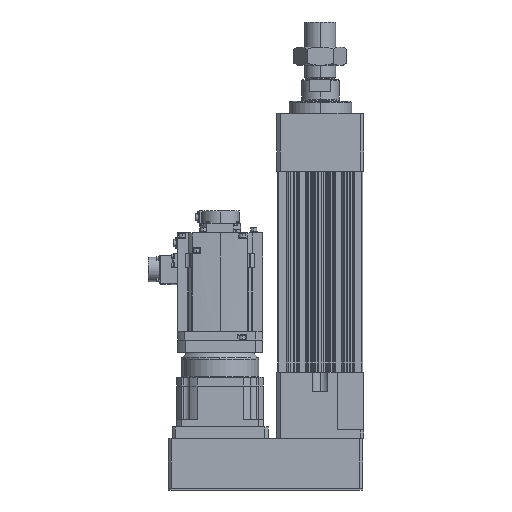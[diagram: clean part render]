
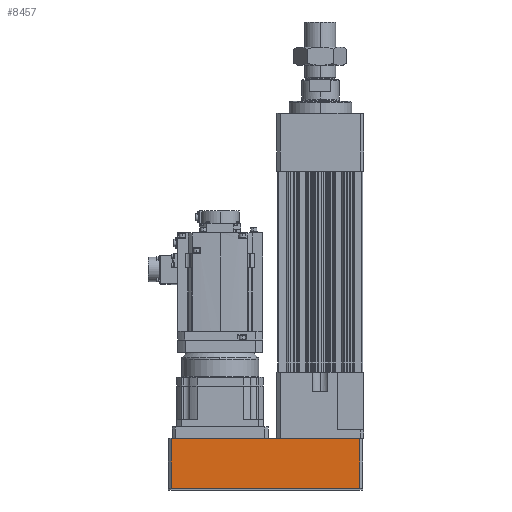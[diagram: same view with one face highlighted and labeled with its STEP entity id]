
A CAD part, left-side view. The second image highlights one B-rep face of the part: STEP entity #8457.
In plain terms, the highlighted planar face has unit normal (-1, 0, 0).
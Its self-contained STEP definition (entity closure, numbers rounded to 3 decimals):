
#1195 = ORIENTED_EDGE ( 'NONE', *, *, #54357, .T. ) ;
#2099 = CARTESIAN_POINT ( 'NONE',  ( -88., -310., 104. ) ) ;
#2218 = ORIENTED_EDGE ( 'NONE', *, *, #33930, .T. ) ;
#2479 = LINE ( 'NONE', #22389, #17935 ) ;
#4894 = CARTESIAN_POINT ( 'NONE',  ( -88., -310., 0.5 ) ) ;
#5719 = CARTESIAN_POINT ( 'NONE',  ( -88., 82., 103.5 ) ) ;
#5845 = VERTEX_POINT ( 'NONE', #5719 ) ;
#6407 = DIRECTION ( 'NONE',  ( 0., 0., 1. ) ) ;
#8457 = ADVANCED_FACE ( 'NONE', ( #52148 ), #30551, .F. ) ;
#10768 = ORIENTED_EDGE ( 'NONE', *, *, #29807, .T. ) ;
#11614 = DIRECTION ( 'NONE',  ( 0., 1., 0. ) ) ;
#11830 = VECTOR ( 'NONE', #6407, 1000. ) ;
#12917 = DIRECTION ( 'NONE',  ( 1., 0., 0. ) ) ;
#13230 = CARTESIAN_POINT ( 'NONE',  ( -88., 88., 0.5 ) ) ;
#13245 = LINE ( 'NONE', #13230, #38784 ) ;
#13274 = DIRECTION ( 'NONE',  ( 0., 1., 0. ) ) ;
#13457 = EDGE_LOOP ( 'NONE', ( #2218, #1195, #10768, #52069 ) ) ;
#14725 = VERTEX_POINT ( 'NONE', #35262 ) ;
#17733 = DIRECTION ( 'NONE',  ( 0., -1., 0. ) ) ;
#17935 = VECTOR ( 'NONE', #21817, 1000. ) ;
#21817 = DIRECTION ( 'NONE',  ( 0., 0., -1. ) ) ;
#22389 = CARTESIAN_POINT ( 'NONE',  ( -88., 82., 104. ) ) ;
#25828 = CARTESIAN_POINT ( 'NONE',  ( -88., 88., 104. ) ) ;
#29268 = LINE ( 'NONE', #2099, #11830 ) ;
#29807 = EDGE_CURVE ( 'NONE', #37387, #14725, #29268, .T. ) ;
#30551 = PLANE ( 'NONE',  #47719 ) ;
#33930 = EDGE_CURVE ( 'NONE', #5845, #41616, #2479, .T. ) ;
#35262 = CARTESIAN_POINT ( 'NONE',  ( -88., -310., 103.5 ) ) ;
#36462 = EDGE_CURVE ( 'NONE', #14725, #5845, #51896, .T. ) ;
#37387 = VERTEX_POINT ( 'NONE', #4894 ) ;
#37511 = CARTESIAN_POINT ( 'NONE',  ( -88., 82., 103.5 ) ) ;
#38784 = VECTOR ( 'NONE', #17733, 1000. ) ;
#41616 = VERTEX_POINT ( 'NONE', #52074 ) ;
#44523 = VECTOR ( 'NONE', #11614, 1000. ) ;
#47719 = AXIS2_PLACEMENT_3D ( 'NONE', #25828, #12917, #13274 ) ;
#51896 = LINE ( 'NONE', #37511, #44523 ) ;
#52069 = ORIENTED_EDGE ( 'NONE', *, *, #36462, .T. ) ;
#52074 = CARTESIAN_POINT ( 'NONE',  ( -88., 82., 0.5 ) ) ;
#52148 = FACE_OUTER_BOUND ( 'NONE', #13457, .T. ) ;
#54357 = EDGE_CURVE ( 'NONE', #41616, #37387, #13245, .T. ) ;
